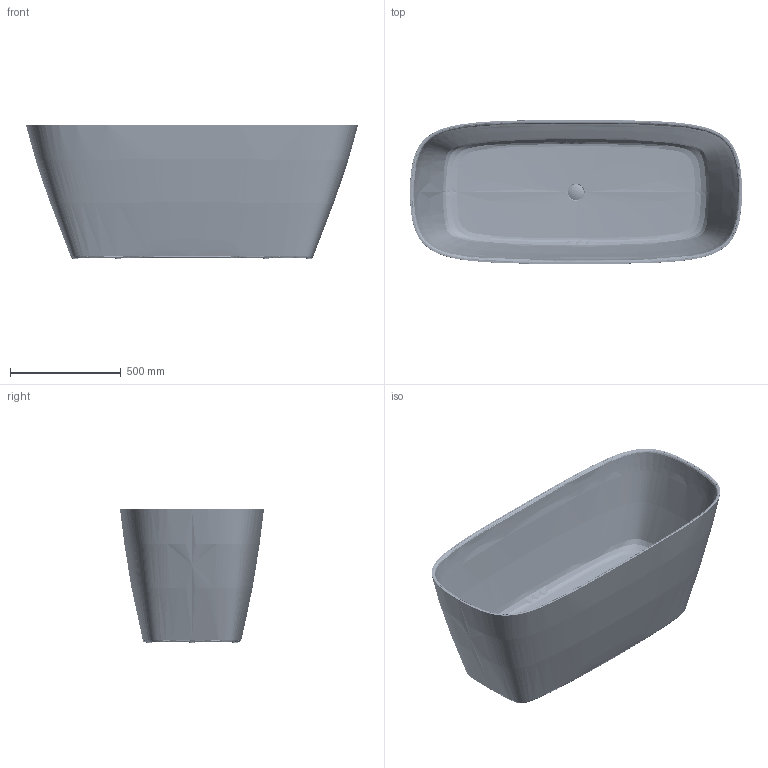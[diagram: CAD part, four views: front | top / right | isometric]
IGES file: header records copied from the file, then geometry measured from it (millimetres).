
Start section: SolidWorks IGES file using analytic representation for surfaces
Global section: file name: C:\Users\PC Lite\Desktop\2D_3D-PACKAGE\PAA-Baths-Cast-Stone--Duna\Solidwork\PAA-baths-Cast-Stone-Duna-1500x650xh600-3D.IGS; native system: SolidWorks 2018; preprocessor: SolidWorks 2018; author: PC Lite; date: 260113.105044; units: millimetre
Bounding box: 1499.43 x 649.7 x 603.5 mm (x, y, z)
Surface area: 5433659.9 mm2 (no closed solid volume)
Topology: 0 solids, 0 shells, 1204 faces, 26733 edges, 26718 vertices
Faces by surface type: revolution 739, bspline 465
